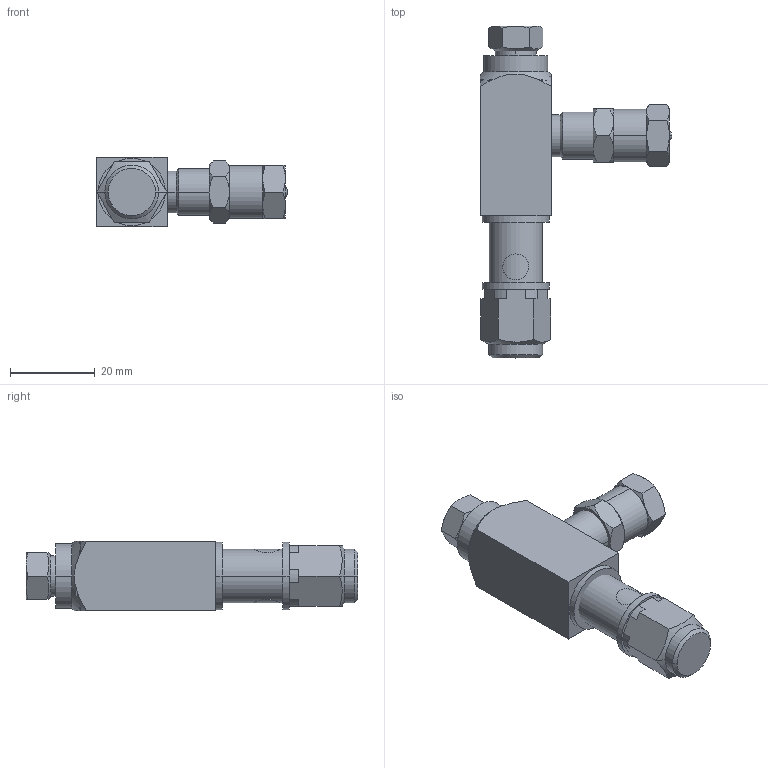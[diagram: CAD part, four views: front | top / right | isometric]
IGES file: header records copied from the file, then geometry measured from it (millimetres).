
Start section:  PTC IGES file: 24e245-en-m.igs
Global section: file name: 24e245-en-m.igs; native system: Creo Parametric by PTC Inc.; preprocessor: 2021072; author: qtmwp1; organization: Unknown; date: 20220214.112233; units: inch
Bounding box: 45.26 x 78.49 x 16.51 mm (x, y, z)
Surface area: 7783.1 mm2 (no closed solid volume)
Topology: 0 solids, 0 shells, 115 faces, 508 edges, 508 vertices
Faces by surface type: revolution 70, bspline 45
